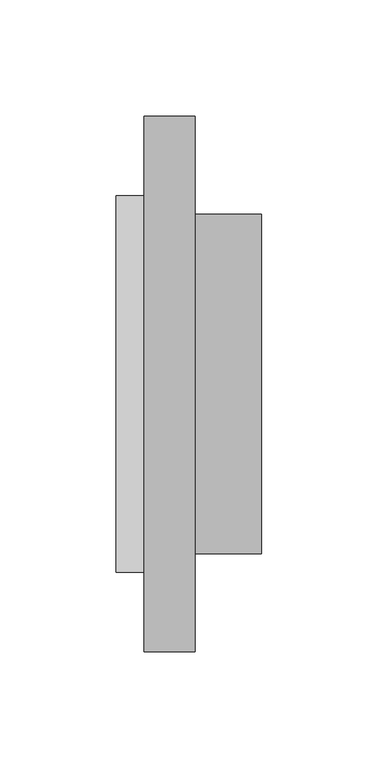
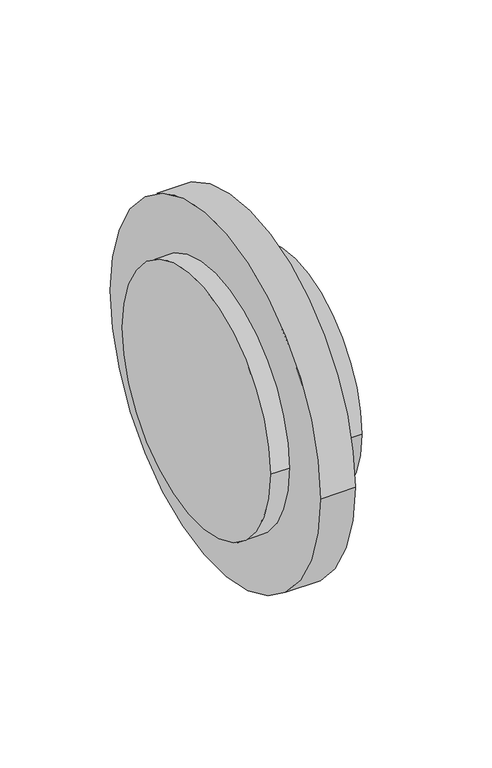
"""IFC4 building model written with IfcOpenShell, lengths in millimetres: pipe fitting geometry, NIRON RED termofusion casquillo con brida : Estándar."""

from ifc_helpers import new_model, si_unit, point, frame, origin, origin_2d, place, context, project, spatial, circle_curve, trimmed, segment, composite_curve, outline, extrude, source, transform, mapped, element, save


def pipe_fitting_ef55f44a(model_context):
    return source(origin(), model_context, "Body", "SweptSolid", [
        extrude(outline(composite_curve([segment(trimmed(circle_curve(origin_2d(), 73.0), [point((73.0, 0.0))], [point((-73.0, 0.0))], False, "CARTESIAN"), True, "CONTINUOUS"), segment(trimmed(circle_curve(origin_2d(), 73.0), [point((-73.0, 0.0))], [point((73.0, 0.0))], False, "CARTESIAN"), True, "CONTINUOUS")], self_intersect=False)), frame((12.0, 0.0, 0.0), z_axis=(1.0, 0.0, 0.0), x_axis=(0.0, 1.0, 0.0)), (0.0, 0.0, 1.0), 50.5),
        extrude(outline(composite_curve([segment(trimmed(circle_curve(origin_2d(), 81.0), [point((-81.0, 0.0))], [point((81.0, 0.0))], False, "CARTESIAN"), True, "CONTINUOUS"), segment(trimmed(circle_curve(origin_2d(), 81.0), [point((81.0, 0.0))], [point((-81.0, 0.0))], False, "CARTESIAN"), True, "CONTINUOUS")], self_intersect=False)), frame((0.0, 0.0, 0.0), z_axis=(1.0, 0.0, 0.0), x_axis=(0.0, 1.0, 0.0)), (0.0, 0.0, 1.0), 12.0),
        extrude(outline(composite_curve([segment(trimmed(circle_curve(origin_2d(), 115.0), [point((115.0, 0.0))], [point((-115.0, 0.0))], False, "CARTESIAN"), True, "CONTINUOUS"), segment(trimmed(circle_curve(origin_2d(), 115.0), [point((-115.0, 0.0))], [point((115.0, 0.0))], False, "CARTESIAN"), True, "CONTINUOUS")], self_intersect=False), holes=[composite_curve([segment(trimmed(circle_curve(origin_2d(), 74.5), [point((74.5, 0.0))], [point((-74.5, 0.0))], True, "CARTESIAN"), True, "CONTINUOUS"), segment(trimmed(circle_curve(origin_2d(), 74.5), [point((-74.5, 0.0))], [point((74.5, 0.0))], True, "CARTESIAN"), True, "CONTINUOUS")], self_intersect=False)]), frame((12.0, 0.0, 0.0), z_axis=(1.0, 0.0, 0.0), x_axis=(0.0, 1.0, 0.0)), (0.0, 0.0, 1.0), 22.0),
    ])


if __name__ == "__main__":
    model = new_model("IFC4")
    model_context = context("Model", 3, world=origin())
    ifc_project = project(units=[si_unit("LENGTHUNIT", "METRE", prefix="MILLI")], contexts=[model_context])
    site = spatial("IfcSite", under=ifc_project)
    building = spatial("IfcBuilding", under=site)
    placement = place(None, origin())
    pipe_fitting_shape = pipe_fitting_ef55f44a(model_context)
    element("IfcPipeFitting", 1, ObjectType="NIRON RED termofusion casquillo con brida : Estándar", at=placement, inside=building, context=model_context, shape_type="MappedRepresentation", body=[
        mapped(pipe_fitting_shape, transform((0.0, 0.0, 0.0), x_axis=(1.0, 0.0, 0.0), y_axis=(0.0, 1.0, 0.0), z_axis=(0.0, 0.0, 1.0))),
    ])
    save(model, "model.ifc")
